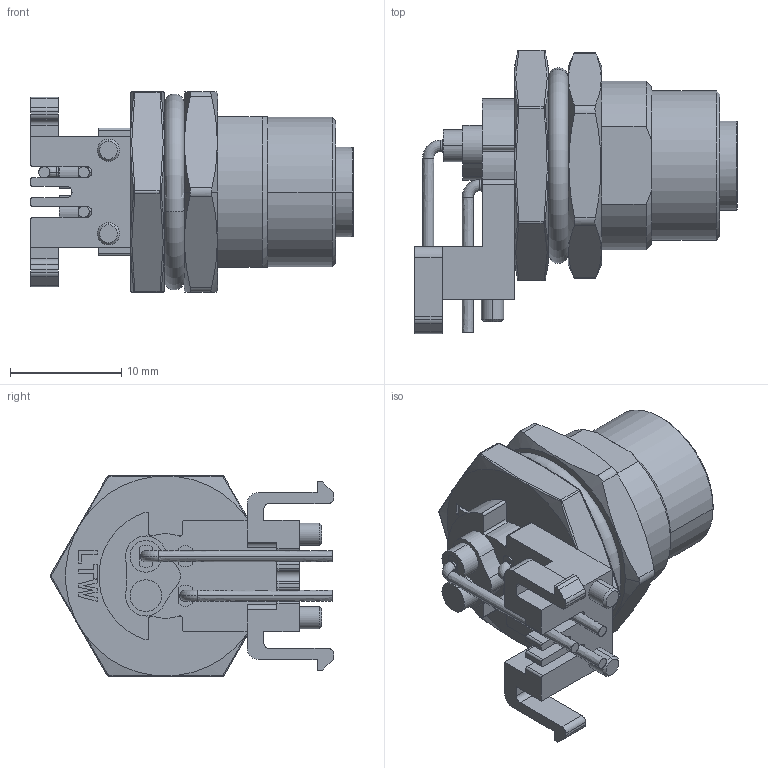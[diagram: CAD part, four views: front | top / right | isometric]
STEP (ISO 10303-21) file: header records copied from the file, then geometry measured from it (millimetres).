
FILE_DESCRIPTION((''),'2;1');
FILE_NAME('M12A-03PFFR-SF8001_SW0001','2017-02-18T',('ks7709'),(''),'PRO/ENGINEER BY PARAMETRIC TECHNOLOGY CORPORATION, 2013050','PRO/ENGINEER BY PARAMETRIC TECHNOLOGY CORPORATION, 2013050','');
FILE_SCHEMA(('CONFIG_CONTROL_DESIGN'));
Length unit declared in the file: millimetre
Products named in the file (1): M12A-03PFFR-SF8001_SW0001
Bounding box: 29 x 25.46 x 18 mm (x, y, z)
Volume: 4281.2 mm3; surface area: 3427 mm2
Topology: 1 solids, 3 shells, 394 faces, 1028 edges, 660 vertices
Faces by surface type: plane 159, cylinder 112, bspline 56, cone 50, extrusion 12, torus 5
Entity records: 17819 total; most frequent: CARTESIAN_POINT 5921, ORIENTED_EDGE 2044, DIRECTION 1790, EDGE_CURVE 1022, VERTEX_POINT 660, AXIS2_PLACEMENT_3D 641, VECTOR 508, LINE 496
